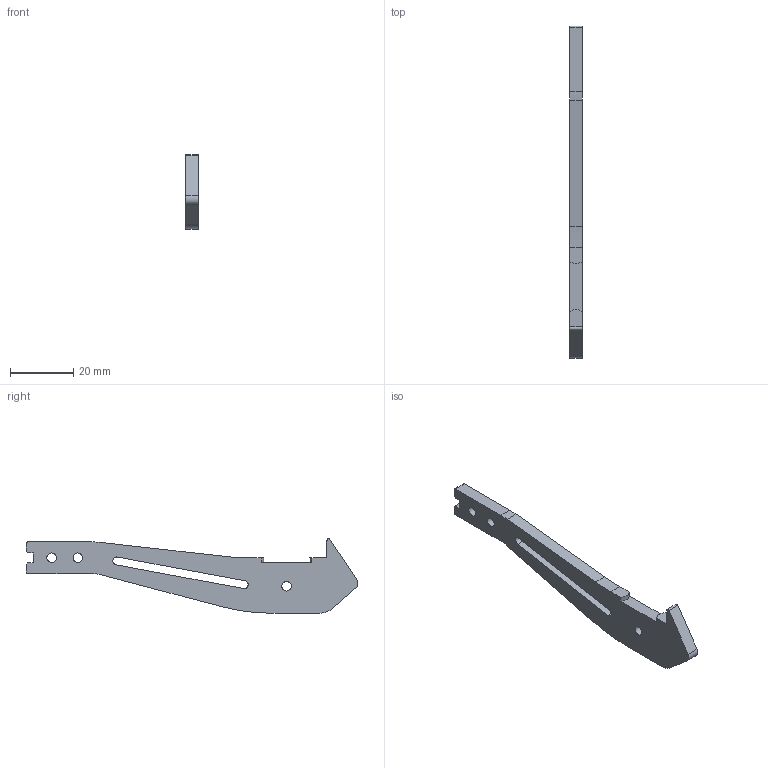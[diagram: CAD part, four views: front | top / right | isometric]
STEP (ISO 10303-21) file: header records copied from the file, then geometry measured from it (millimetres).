
FILE_DESCRIPTION(/* description */ (''),/* implementation_level */ '2;1');
FILE_NAME(/* name */ 'D:\3D Printing & CAD Work\Customers\My self\Drone 3.0\Thingiverce\Part4.2.stp',/* time_stamp */ '2018-11-19T19:01:42+02:00',/* author */ ('Damien'),/* organization */ (''),/* preprocessor_version */ 'ST-DEVELOPER v17',/* originating_system */ 'Autodesk Inventor 2018',/* authorisation */ '');
FILE_SCHEMA (('AUTOMOTIVE_DESIGN { 1 0 10303 214 3 1 1 }'));
Length unit declared in the file: millimetre
Products named in the file (1): Part4.2
Bounding box: 4 x 104.78 x 23.48 mm (x, y, z)
Volume: 5108 mm3; surface area: 4004 mm2
Topology: 1 solids, 1 shells, 38 faces, 108 edges, 72 vertices
Faces by surface type: plane 20, cylinder 18
Full cylindrical faces by diameter (mm): 3 x3
Entity records: 1303 total; most frequent: DIRECTION 222, CARTESIAN_POINT 219, ORIENTED_EDGE 216, EDGE_CURVE 108, AXIS2_PLACEMENT_3D 75, LINE 72, VECTOR 72, VERTEX_POINT 72
